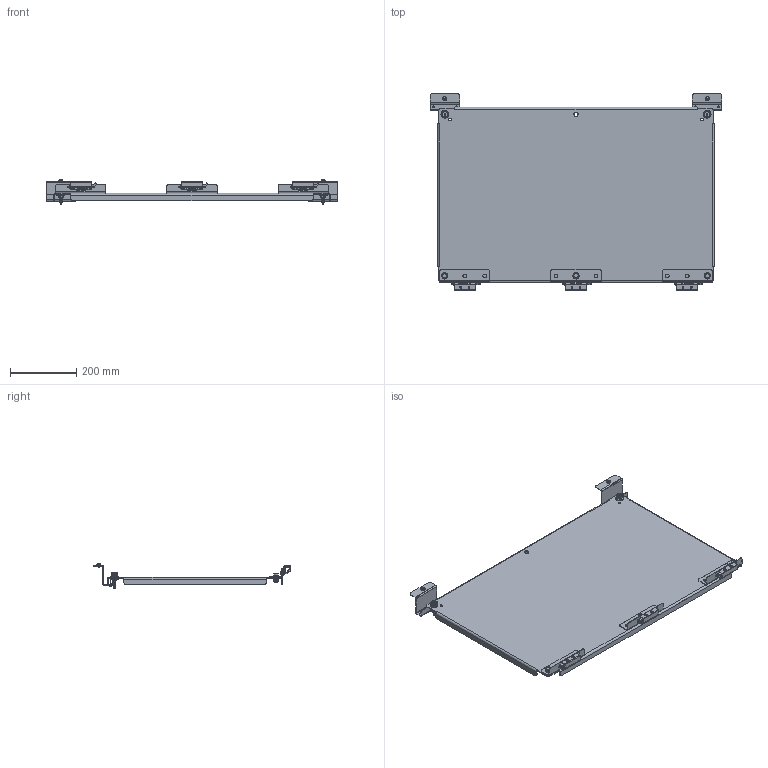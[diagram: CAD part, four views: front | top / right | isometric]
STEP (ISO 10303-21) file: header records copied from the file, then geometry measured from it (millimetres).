
FILE_DESCRIPTION((''),'2;1');
FILE_NAME('SCE-ELSP3_ASM','2020-09-09T08:24:55',('dougp'),('SAGINAW CONTROL & ENGINEERING'),'CREO PARAMETRIC BY PTC INC, 2017260','CREO PARAMETRIC BY PTC INC, 2017260','');
FILE_SCHEMA(('AUTOMOTIVE_DESIGN { 1 0 10303 214 1 1 1 1 }'));
Length unit declared in the file: inch
Products named in the file (30): SUBPANEL-FOR-REFERENCE; 115223-BRACKET; 115223_ASM; 114875; 100022; 114875_ASM; 102493; 100904; 101376; 101376-PIN; 101376_ASM; 105483; 105484_SHAFT; 105484_KNOB; 105484_FERRULE; 105484_HOUSING; 105484_INTERNAL_STAR_WASHER; 105484_NUT_MOUNTING; 105484_CAM_NUT; 105484_CAM; 105484_ASM; 101645; 102479; 115162-BRACKET; 115162_ASM; 101670; 114509; 102483; 102019; SCE-ELSP3_ASM
Assembly tree (62 placements, depth 3):
  SCE-ELSP3_ASM
    SUBPANEL-FOR-REFERENCE
    115223_ASM  x3
      115223-BRACKET
    114875_ASM  x3
      114875
      100022
    102493  x3
    100904  x3
    101376_ASM  x3
      101376
      101376-PIN
    105483  x4
    105484_ASM  x2
      105484_SHAFT
      105484_KNOB
      105484_FERRULE
      105484_HOUSING
      105484_INTERNAL_STAR_WASHER
      105484_NUT_MOUNTING
      105484_CAM_NUT
      105484_CAM
    101645  x6
    102479  x6
    115162_ASM  x2
      115162-BRACKET
      100022
    101670  x3
    114509  x2
    102483  x2
    102019
Bounding box: 882.65 x 594.81 x 77.19 mm (x, y, z)
Volume: 1697744.2 mm3; surface area: 1139998.4 mm2
Topology: 72 solids, 74 shells, 2354 faces, 5703 edges, 3391 vertices
Faces by surface type: plane 1014, cylinder 626, bspline 267, cone 218, torus 150, sphere 79
Entity records: 40951 total; most frequent: CARTESIAN_POINT 10666, ORIENTED_EDGE 4232, DIRECTION 4123, EDGE_CURVE 2116, AXIS2_PLACEMENT_3D 1602, PRESENTATION_STYLE_ASSIGNMENT 1399, STYLED_ITEM 1399, CURVE_STYLE 1378
